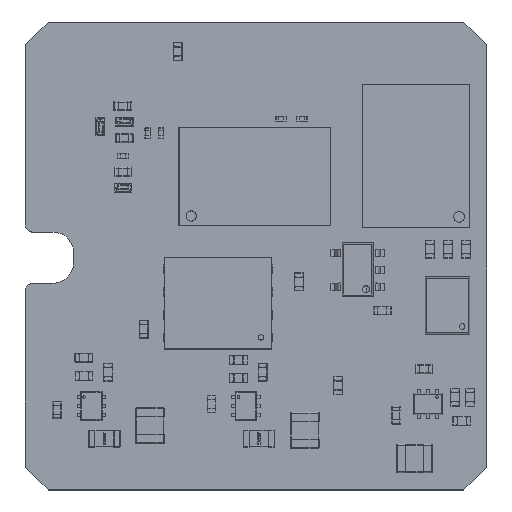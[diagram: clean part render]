
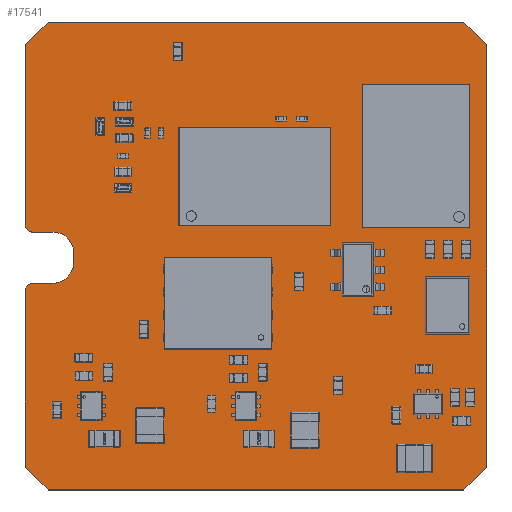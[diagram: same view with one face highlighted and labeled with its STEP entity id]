
A CAD part, top view. The second image highlights one B-rep face of the part: STEP entity #17541.
In plain terms, the highlighted planar face has unit normal (0, 0, 1).
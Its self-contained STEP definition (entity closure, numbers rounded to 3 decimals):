
#17020 = VERTEX_POINT('',#17021);
#17021 = CARTESIAN_POINT('',(0.,1.27,0.));
#17027 = EDGE_CURVE('',#17020,#17028,#17030,.T.);
#17028 = VERTEX_POINT('',#17029);
#17029 = CARTESIAN_POINT('',(0.,11.147,0.
    ));
#17030 = LINE('',#17031,#17032);
#17031 = CARTESIAN_POINT('',(0.,1.27,0.));
#17032 = VECTOR('',#17033,1.);
#17033 = DIRECTION('',(0.,1.,0.));
#17058 = EDGE_CURVE('',#17028,#17059,#17061,.T.);
#17059 = VERTEX_POINT('',#17060);
#17060 = CARTESIAN_POINT('',(0.41,11.557,0.));
#17061 = CIRCLE('',#17062,0.41);
#17062 = AXIS2_PLACEMENT_3D('',#17063,#17064,#17065);
#17063 = CARTESIAN_POINT('',(0.41,11.147,0.));
#17064 = DIRECTION('',(0.,0.,-1.));
#17065 = DIRECTION('',(-1.,-0.001,0.));
#17091 = EDGE_CURVE('',#17059,#17092,#17094,.T.);
#17092 = VERTEX_POINT('',#17093);
#17093 = CARTESIAN_POINT('',(1.54,11.557,0.));
#17094 = LINE('',#17095,#17096);
#17095 = CARTESIAN_POINT('',(0.41,11.557,0.));
#17096 = VECTOR('',#17097,1.);
#17097 = DIRECTION('',(1.,0.,0.));
#17122 = EDGE_CURVE('',#17092,#17123,#17125,.T.);
#17123 = VERTEX_POINT('',#17124);
#17124 = CARTESIAN_POINT('',(2.7,12.717,0.));
#17125 = CIRCLE('',#17126,1.161);
#17126 = AXIS2_PLACEMENT_3D('',#17127,#17128,#17129);
#17127 = CARTESIAN_POINT('',(1.539,12.718,0.));
#17128 = DIRECTION('',(0.,0.,1.));
#17129 = DIRECTION('',(0.001,-1.,0.));
#17155 = EDGE_CURVE('',#17123,#17156,#17158,.T.);
#17156 = VERTEX_POINT('',#17157);
#17157 = CARTESIAN_POINT('',(2.7,13.257,0.));
#17158 = LINE('',#17159,#17160);
#17159 = CARTESIAN_POINT('',(2.7,12.717,0.));
#17160 = VECTOR('',#17161,1.);
#17161 = DIRECTION('',(0.,1.,0.));
#17186 = EDGE_CURVE('',#17156,#17187,#17189,.T.);
#17187 = VERTEX_POINT('',#17188);
#17188 = CARTESIAN_POINT('',(1.54,14.417,0.));
#17189 = CIRCLE('',#17190,1.161);
#17190 = AXIS2_PLACEMENT_3D('',#17191,#17192,#17193);
#17191 = CARTESIAN_POINT('',(1.539,13.256,0.));
#17192 = DIRECTION('',(0.,0.,1.));
#17193 = DIRECTION('',(1.,0.001,0.));
#17219 = EDGE_CURVE('',#17187,#17220,#17222,.T.);
#17220 = VERTEX_POINT('',#17221);
#17221 = CARTESIAN_POINT('',(0.41,14.417,0.));
#17222 = LINE('',#17223,#17224);
#17223 = CARTESIAN_POINT('',(1.54,14.417,0.));
#17224 = VECTOR('',#17225,1.);
#17225 = DIRECTION('',(-1.,0.,0.));
#17250 = EDGE_CURVE('',#17220,#17251,#17253,.T.);
#17251 = VERTEX_POINT('',#17252);
#17252 = CARTESIAN_POINT('',(0.,14.827,0.
    ));
#17253 = CIRCLE('',#17254,0.41);
#17254 = AXIS2_PLACEMENT_3D('',#17255,#17256,#17257);
#17255 = CARTESIAN_POINT('',(0.41,14.827,0.));
#17256 = DIRECTION('',(0.,0.,-1.));
#17257 = DIRECTION('',(0.001,-1.,0.));
#17283 = EDGE_CURVE('',#17251,#17284,#17286,.T.);
#17284 = VERTEX_POINT('',#17285);
#17285 = CARTESIAN_POINT('',(0.,24.892,0.));
#17286 = LINE('',#17287,#17288);
#17287 = CARTESIAN_POINT('',(0.,14.827,0.));
#17288 = VECTOR('',#17289,1.);
#17289 = DIRECTION('',(0.,1.,0.));
#17314 = EDGE_CURVE('',#17284,#17315,#17317,.T.);
#17315 = VERTEX_POINT('',#17316);
#17316 = CARTESIAN_POINT('',(1.27,26.162,0.));
#17317 = LINE('',#17318,#17319);
#17318 = CARTESIAN_POINT('',(0.,24.892,0.));
#17319 = VECTOR('',#17320,1.);
#17320 = DIRECTION('',(0.707,0.707,0.));
#17345 = EDGE_CURVE('',#17315,#17346,#17348,.T.);
#17346 = VERTEX_POINT('',#17347);
#17347 = CARTESIAN_POINT('',(24.511,26.162,0.));
#17348 = LINE('',#17349,#17350);
#17349 = CARTESIAN_POINT('',(1.27,26.162,0.));
#17350 = VECTOR('',#17351,1.);
#17351 = DIRECTION('',(1.,0.,0.));
#17376 = EDGE_CURVE('',#17346,#17377,#17379,.T.);
#17377 = VERTEX_POINT('',#17378);
#17378 = CARTESIAN_POINT('',(25.781,24.892,0.));
#17379 = LINE('',#17380,#17381);
#17380 = CARTESIAN_POINT('',(24.511,26.162,0.));
#17381 = VECTOR('',#17382,1.);
#17382 = DIRECTION('',(0.707,-0.707,0.));
#17407 = EDGE_CURVE('',#17377,#17408,#17410,.T.);
#17408 = VERTEX_POINT('',#17409);
#17409 = CARTESIAN_POINT('',(25.781,1.27,0.));
#17410 = LINE('',#17411,#17412);
#17411 = CARTESIAN_POINT('',(25.781,24.892,0.));
#17412 = VECTOR('',#17413,1.);
#17413 = DIRECTION('',(0.,-1.,0.));
#17438 = EDGE_CURVE('',#17408,#17439,#17441,.T.);
#17439 = VERTEX_POINT('',#17440);
#17440 = CARTESIAN_POINT('',(24.511,0.,0.));
#17441 = LINE('',#17442,#17443);
#17442 = CARTESIAN_POINT('',(25.781,1.27,0.));
#17443 = VECTOR('',#17444,1.);
#17444 = DIRECTION('',(-0.707,-0.707,0.));
#17469 = EDGE_CURVE('',#17439,#17470,#17472,.T.);
#17470 = VERTEX_POINT('',#17471);
#17471 = CARTESIAN_POINT('',(1.27,0.,0.));
#17472 = LINE('',#17473,#17474);
#17473 = CARTESIAN_POINT('',(24.511,0.,0.));
#17474 = VECTOR('',#17475,1.);
#17475 = DIRECTION('',(-1.,0.,0.));
#17500 = EDGE_CURVE('',#17470,#17020,#17501,.T.);
#17501 = LINE('',#17502,#17503);
#17502 = CARTESIAN_POINT('',(1.27,0.,0.));
#17503 = VECTOR('',#17504,1.);
#17504 = DIRECTION('',(-0.707,0.707,0.));
#17541 = ADVANCED_FACE('',(#17542),#17560,.T.);
#17542 = FACE_BOUND('',#17543,.F.);
#17543 = EDGE_LOOP('',(#17544,#17545,#17546,#17547,#17548,#17549,#17550,
    #17551,#17552,#17553,#17554,#17555,#17556,#17557,#17558,#17559));
#17544 = ORIENTED_EDGE('',*,*,#17027,.T.);
#17545 = ORIENTED_EDGE('',*,*,#17058,.T.);
#17546 = ORIENTED_EDGE('',*,*,#17091,.T.);
#17547 = ORIENTED_EDGE('',*,*,#17122,.T.);
#17548 = ORIENTED_EDGE('',*,*,#17155,.T.);
#17549 = ORIENTED_EDGE('',*,*,#17186,.T.);
#17550 = ORIENTED_EDGE('',*,*,#17219,.T.);
#17551 = ORIENTED_EDGE('',*,*,#17250,.T.);
#17552 = ORIENTED_EDGE('',*,*,#17283,.T.);
#17553 = ORIENTED_EDGE('',*,*,#17314,.T.);
#17554 = ORIENTED_EDGE('',*,*,#17345,.T.);
#17555 = ORIENTED_EDGE('',*,*,#17376,.T.);
#17556 = ORIENTED_EDGE('',*,*,#17407,.T.);
#17557 = ORIENTED_EDGE('',*,*,#17438,.T.);
#17558 = ORIENTED_EDGE('',*,*,#17469,.T.);
#17559 = ORIENTED_EDGE('',*,*,#17500,.T.);
#17560 = PLANE('',#17561);
#17561 = AXIS2_PLACEMENT_3D('',#17562,#17563,#17564);
#17562 = CARTESIAN_POINT('',(0.,1.27,0.));
#17563 = DIRECTION('',(0.,0.,1.));
#17564 = DIRECTION('',(1.,0.,0.));
